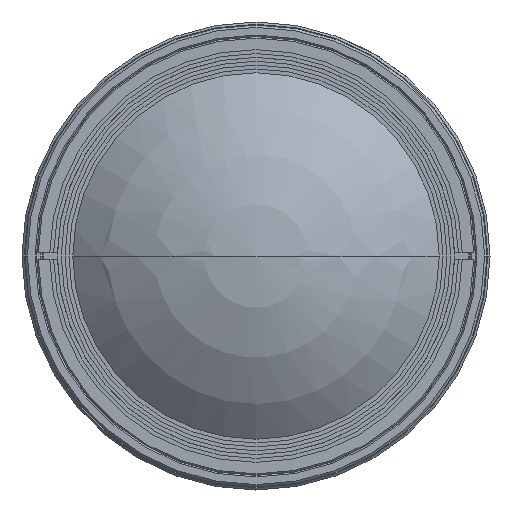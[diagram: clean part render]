
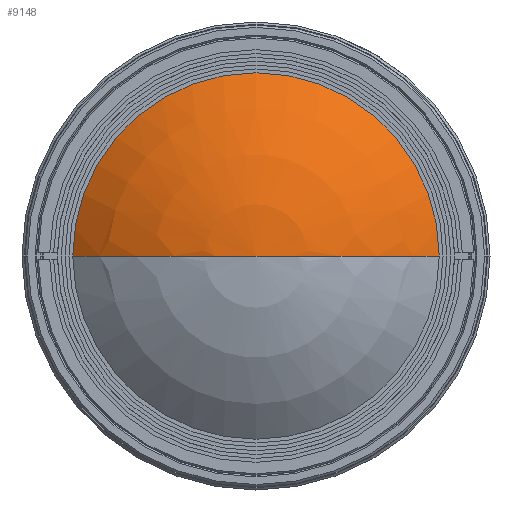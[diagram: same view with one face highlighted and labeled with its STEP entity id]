
A CAD part, left-side view. The second image highlights one B-rep face of the part: STEP entity #9148.
In plain terms, the highlighted spherical face has radius 36.432 mm.
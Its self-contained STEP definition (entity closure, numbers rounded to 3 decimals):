
#9063=CARTESIAN_POINT('',(9.56,0.,0.));
#9064=DIRECTION('',(1.,0.,0.));
#9065=DIRECTION('',(0.,1.,0.));
#9066=AXIS2_PLACEMENT_3D('',#9063,#9064,#9065);
#9068=CARTESIAN_POINT('',(36.432,0.,0.));
#9069=DIRECTION('',(0.,0.,1.));
#9070=DIRECTION('',(-0.738,0.675,0.));
#9071=AXIS2_PLACEMENT_3D('',#9068,#9069,#9070);
#9073=CARTESIAN_POINT('',(36.432,0.,0.));
#9074=DIRECTION('',(0.,0.,-1.));
#9075=DIRECTION('',(-0.738,-0.675,0.));
#9076=AXIS2_PLACEMENT_3D('',#9073,#9074,#9075);
#9119=CARTESIAN_POINT('',(9.56,24.6,0.));
#9120=CARTESIAN_POINT('',(0.,0.,0.));
#9121=VERTEX_POINT('',#9119);
#9122=VERTEX_POINT('',#9120);
#9123=CARTESIAN_POINT('',(9.56,-24.6,0.));
#9124=VERTEX_POINT('',#9123);
#9135=CARTESIAN_POINT('',(36.432,0.,0.));
#9136=DIRECTION('',(1.,0.,0.));
#9137=DIRECTION('',(0.,-1.,0.));
#9138=AXIS2_PLACEMENT_3D('',#9135,#9136,#9137);
#9139=SPHERICAL_SURFACE('',#9138,36.432);
#9141=ORIENTED_EDGE('',*,*,#9140,.F.);
#9143=ORIENTED_EDGE('',*,*,#9142,.T.);
#9145=ORIENTED_EDGE('',*,*,#9144,.T.);
#9146=EDGE_LOOP('',(#9141,#9143,#9145));
#9147=FACE_OUTER_BOUND('',#9146,.F.);
#9067=CIRCLE('',#9066,24.6);
#9072=CIRCLE('',#9071,36.432);
#9077=CIRCLE('',#9076,36.432);
#9140=EDGE_CURVE('',#9121,#9122,#9072,.T.);
#9142=EDGE_CURVE('',#9121,#9124,#9067,.T.);
#9144=EDGE_CURVE('',#9124,#9122,#9077,.T.);
#9148=ADVANCED_FACE('',(#9147),#9139,.T.);
